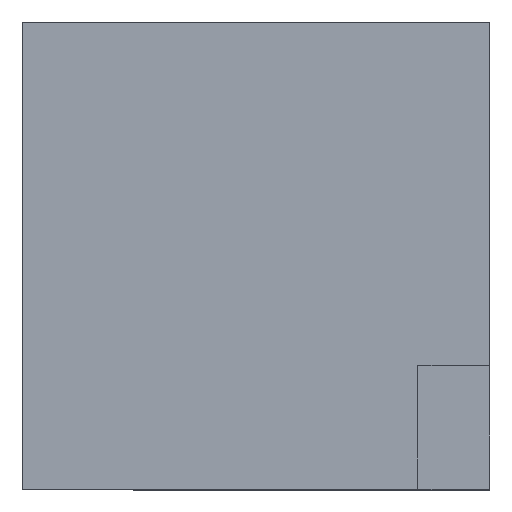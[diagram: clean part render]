
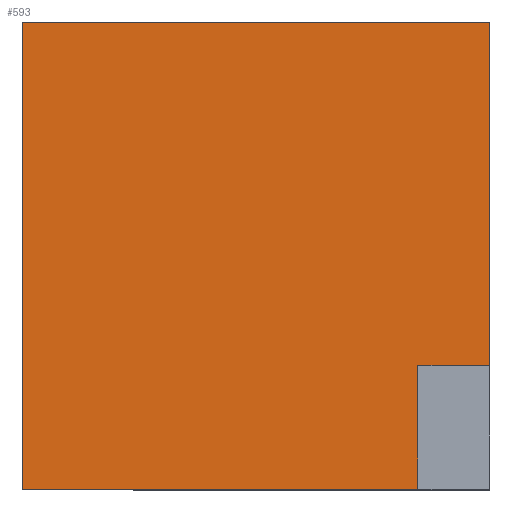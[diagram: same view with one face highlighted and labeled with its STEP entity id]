
A CAD part, top view. The second image highlights one B-rep face of the part: STEP entity #593.
In plain terms, the highlighted planar face has unit normal (0, 0, 1).
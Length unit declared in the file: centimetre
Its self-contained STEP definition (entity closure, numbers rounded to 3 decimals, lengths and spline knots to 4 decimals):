
#15 = DIRECTION ( 'NONE',  ( 0., 1., 0. ) ) ;
#32 = CARTESIAN_POINT ( 'NONE',  ( 0., 0., 1000. ) ) ;
#38 = DIRECTION ( 'NONE',  ( 1., 0., 0. ) ) ;
#48 = LINE ( 'NONE', #130, #612 ) ;
#49 = LINE ( 'NONE', #335, #482 ) ;
#53 = VECTOR ( 'NONE', #331, 100. ) ;
#62 = VERTEX_POINT ( 'NONE', #124 ) ;
#63 = CARTESIAN_POINT ( 'NONE',  ( 0., 1000., 1000. ) ) ;
#96 = VERTEX_POINT ( 'NONE', #789 ) ;
#100 = EDGE_CURVE ( 'NONE', #359, #389, #332, .T. ) ;
#124 = CARTESIAN_POINT ( 'NONE',  ( 0., 1000., 1000. ) ) ;
#130 = CARTESIAN_POINT ( 'NONE',  ( 846.4471, 264.8985, 1000. ) ) ;
#225 = VERTEX_POINT ( 'NONE', #512 ) ;
#234 = CARTESIAN_POINT ( 'NONE',  ( 1000., 1000., 1000. ) ) ;
#302 = ORIENTED_EDGE ( 'NONE', *, *, #542, .T. ) ;
#321 = EDGE_CURVE ( 'NONE', #225, #96, #380, .T. ) ;
#331 = DIRECTION ( 'NONE',  ( -1., 0., 0. ) ) ;
#332 = LINE ( 'NONE', #712, #401 ) ;
#335 = CARTESIAN_POINT ( 'NONE',  ( 846.4471, 0., 1000. ) ) ;
#340 = LINE ( 'NONE', #63, #468 ) ;
#359 = VERTEX_POINT ( 'NONE', #32 ) ;
#364 = EDGE_LOOP ( 'NONE', ( #599, #563, #302, #781, #683, #953 ) ) ;
#380 = LINE ( 'NONE', #234, #577 ) ;
#389 = VERTEX_POINT ( 'NONE', #902 ) ;
#401 = VECTOR ( 'NONE', #488, 100. ) ;
#422 = LINE ( 'NONE', #720, #53 ) ;
#459 = DIRECTION ( 'NONE',  ( 1., 0., 0. ) ) ;
#468 = VECTOR ( 'NONE', #511, 100. ) ;
#482 = VECTOR ( 'NONE', #935, 100. ) ;
#488 = DIRECTION ( 'NONE',  ( 1., 0., 0. ) ) ;
#490 = EDGE_CURVE ( 'NONE', #741, #389, #49, .T. ) ;
#511 = DIRECTION ( 'NONE',  ( 0., -1., 0. ) ) ;
#512 = CARTESIAN_POINT ( 'NONE',  ( 1000., 264.8985, 1000. ) ) ;
#542 = EDGE_CURVE ( 'NONE', #96, #62, #422, .T. ) ;
#563 = ORIENTED_EDGE ( 'NONE', *, *, #321, .T. ) ;
#577 = VECTOR ( 'NONE', #15, 100. ) ;
#593 = ADVANCED_FACE ( 'NONE', ( #814 ), #597, .T. ) ;
#597 = PLANE ( 'NONE',  #895 ) ;
#599 = ORIENTED_EDGE ( 'NONE', *, *, #751, .T. ) ;
#612 = VECTOR ( 'NONE', #38, 100. ) ;
#671 = CARTESIAN_POINT ( 'NONE',  ( 0., 0., 1000. ) ) ;
#683 = ORIENTED_EDGE ( 'NONE', *, *, #100, .T. ) ;
#696 = CARTESIAN_POINT ( 'NONE',  ( 846.4471, 264.8985, 1000. ) ) ;
#712 = CARTESIAN_POINT ( 'NONE',  ( 0., 0., 1000. ) ) ;
#720 = CARTESIAN_POINT ( 'NONE',  ( 0., 1000., 1000. ) ) ;
#741 = VERTEX_POINT ( 'NONE', #696 ) ;
#751 = EDGE_CURVE ( 'NONE', #741, #225, #48, .T. ) ;
#762 = DIRECTION ( 'NONE',  ( 0., 0., 1. ) ) ;
#781 = ORIENTED_EDGE ( 'NONE', *, *, #950, .T. ) ;
#789 = CARTESIAN_POINT ( 'NONE',  ( 1000., 1000., 1000. ) ) ;
#814 = FACE_OUTER_BOUND ( 'NONE', #364, .T. ) ;
#895 = AXIS2_PLACEMENT_3D ( 'NONE', #671, #762, #459 ) ;
#902 = CARTESIAN_POINT ( 'NONE',  ( 846.4471, 0., 1000. ) ) ;
#935 = DIRECTION ( 'NONE',  ( 0., -1., 0. ) ) ;
#950 = EDGE_CURVE ( 'NONE', #62, #359, #340, .T. ) ;
#953 = ORIENTED_EDGE ( 'NONE', *, *, #490, .F. ) ;
